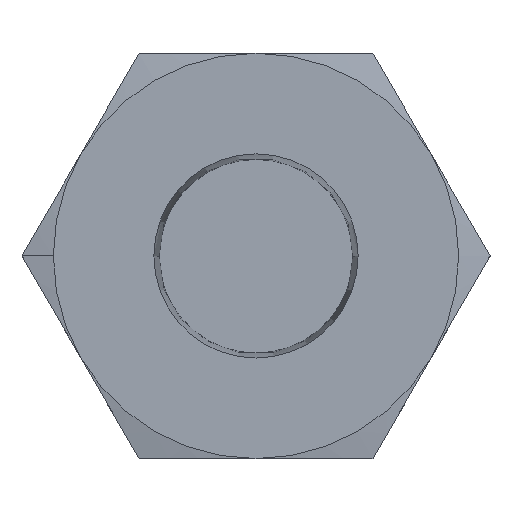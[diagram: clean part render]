
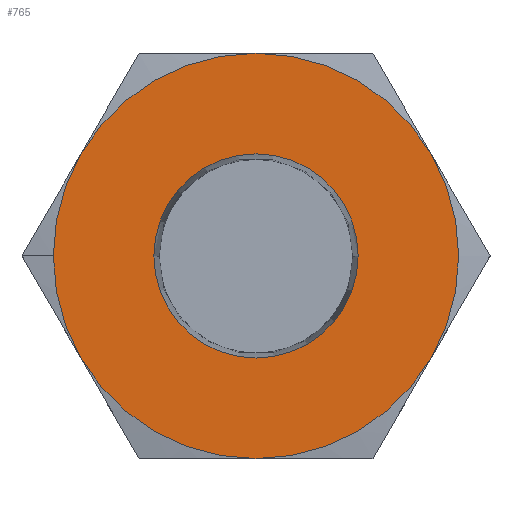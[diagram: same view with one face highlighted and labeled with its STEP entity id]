
A CAD part, top view. The second image highlights one B-rep face of the part: STEP entity #765.
In plain terms, the highlighted planar face has unit normal (0, 0, 1).
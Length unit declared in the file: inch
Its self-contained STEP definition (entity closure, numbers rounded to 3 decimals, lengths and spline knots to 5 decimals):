
#3 = DIRECTION ( 'NONE',  ( 0., 0., 1. ) ) ;
#34 = VERTEX_POINT ( 'NONE', #382 ) ;
#44 = DIRECTION ( 'NONE',  ( 0., 0., 1. ) ) ;
#88 = EDGE_CURVE ( 'NONE', #1481, #34, #397, .T. ) ;
#100 = DIRECTION ( 'NONE',  ( 1., 0., 0. ) ) ;
#106 = CIRCLE ( 'NONE', #551, 1. ) ;
#128 = AXIS2_PLACEMENT_3D ( 'NONE', #574, #1398, #687 ) ;
#163 = CARTESIAN_POINT ( 'NONE',  ( -0.86603, -0.5, 0.34 ) ) ;
#175 = CIRCLE ( 'NONE', #515, 1. ) ;
#191 = CARTESIAN_POINT ( 'NONE',  ( 0., -1., 0.34 ) ) ;
#207 = DIRECTION ( 'NONE',  ( 0., 0., 1. ) ) ;
#227 = CARTESIAN_POINT ( 'NONE',  ( 0., 0., 0.34 ) ) ;
#237 = CARTESIAN_POINT ( 'NONE',  ( 0.86603, 0.5, 0.34 ) ) ;
#250 = VERTEX_POINT ( 'NONE', #163 ) ;
#268 = CARTESIAN_POINT ( 'NONE',  ( -1., 0., 0.34 ) ) ;
#286 = AXIS2_PLACEMENT_3D ( 'NONE', #568, #3, #892 ) ;
#301 = CARTESIAN_POINT ( 'NONE',  ( 0., 0., 0.34 ) ) ;
#302 = CARTESIAN_POINT ( 'NONE',  ( 0., 0., 0.34 ) ) ;
#326 = DIRECTION ( 'NONE',  ( 0., 0., 1. ) ) ;
#332 = VERTEX_POINT ( 'NONE', #1300 ) ;
#370 = CARTESIAN_POINT ( 'NONE',  ( -0.50392, 0., 0.34 ) ) ;
#378 = ORIENTED_EDGE ( 'NONE', *, *, #837, .T. ) ;
#382 = CARTESIAN_POINT ( 'NONE',  ( 0.50392, 0., 0.34 ) ) ;
#397 = CIRCLE ( 'NONE', #1042, 0.50392 ) ;
#413 = CARTESIAN_POINT ( 'NONE',  ( 0., 0., 0.34 ) ) ;
#414 = ORIENTED_EDGE ( 'NONE', *, *, #1078, .T. ) ;
#435 = DIRECTION ( 'NONE',  ( 1., 0., 0. ) ) ;
#437 = DIRECTION ( 'NONE',  ( 1., 0., 0. ) ) ;
#451 = CIRCLE ( 'NONE', #1010, 1. ) ;
#469 = EDGE_LOOP ( 'NONE', ( #1370, #1349, #414, #1476, #657, #936, #378 ) ) ;
#486 = ORIENTED_EDGE ( 'NONE', *, *, #88, .F. ) ;
#515 = AXIS2_PLACEMENT_3D ( 'NONE', #706, #1534, #834 ) ;
#539 = FACE_BOUND ( 'NONE', #823, .T. ) ;
#543 = DIRECTION ( 'NONE',  ( 1., 0., 0. ) ) ;
#551 = AXIS2_PLACEMENT_3D ( 'NONE', #413, #1256, #543 ) ;
#568 = CARTESIAN_POINT ( 'NONE',  ( 1.1547, 0., 0.34 ) ) ;
#574 = CARTESIAN_POINT ( 'NONE',  ( 0., 0., 0.34 ) ) ;
#628 = VERTEX_POINT ( 'NONE', #268 ) ;
#657 = ORIENTED_EDGE ( 'NONE', *, *, #1258, .T. ) ;
#687 = DIRECTION ( 'NONE',  ( 1., 0., 0. ) ) ;
#700 = DIRECTION ( 'NONE',  ( 0., 0., 1. ) ) ;
#705 = VERTEX_POINT ( 'NONE', #1501 ) ;
#706 = CARTESIAN_POINT ( 'NONE',  ( 0., 0., 0.34 ) ) ;
#765 = ADVANCED_FACE ( 'NONE', ( #539, #1187 ), #802, .T. ) ;
#802 = PLANE ( 'NONE',  #286 ) ;
#813 = CARTESIAN_POINT ( 'NONE',  ( 0., 0., 0.34 ) ) ;
#823 = EDGE_LOOP ( 'NONE', ( #1298, #486 ) ) ;
#834 = DIRECTION ( 'NONE',  ( 1., 0., 0. ) ) ;
#837 = EDGE_CURVE ( 'NONE', #1330, #332, #106, .T. ) ;
#892 = DIRECTION ( 'NONE',  ( 1., 0., 0. ) ) ;
#914 = EDGE_CURVE ( 'NONE', #250, #1330, #1267, .T. ) ;
#933 = DIRECTION ( 'NONE',  ( 1., 0., 0. ) ) ;
#936 = ORIENTED_EDGE ( 'NONE', *, *, #914, .T. ) ;
#961 = CIRCLE ( 'NONE', #1270, 1. ) ;
#971 = VERTEX_POINT ( 'NONE', #1045 ) ;
#990 = EDGE_CURVE ( 'NONE', #705, #628, #961, .T. ) ;
#1010 = AXIS2_PLACEMENT_3D ( 'NONE', #1411, #700, #1524 ) ;
#1042 = AXIS2_PLACEMENT_3D ( 'NONE', #227, #207, #100 ) ;
#1045 = CARTESIAN_POINT ( 'NONE',  ( 0., 1., 0.34 ) ) ;
#1056 = CIRCLE ( 'NONE', #1179, 0.50392 ) ;
#1060 = CARTESIAN_POINT ( 'NONE',  ( 0., 0., 0.34 ) ) ;
#1078 = EDGE_CURVE ( 'NONE', #971, #705, #175, .T. ) ;
#1117 = AXIS2_PLACEMENT_3D ( 'NONE', #301, #1166, #435 ) ;
#1125 = CIRCLE ( 'NONE', #128, 1. ) ;
#1159 = EDGE_CURVE ( 'NONE', #1455, #971, #1354, .T. ) ;
#1166 = DIRECTION ( 'NONE',  ( 0., 0., 1. ) ) ;
#1167 = DIRECTION ( 'NONE',  ( 0., 0., 1. ) ) ;
#1179 = AXIS2_PLACEMENT_3D ( 'NONE', #1060, #326, #1186 ) ;
#1186 = DIRECTION ( 'NONE',  ( 1., 0., 0. ) ) ;
#1187 = FACE_OUTER_BOUND ( 'NONE', #469, .T. ) ;
#1231 = EDGE_CURVE ( 'NONE', #332, #1455, #1125, .T. ) ;
#1256 = DIRECTION ( 'NONE',  ( 0., 0., 1. ) ) ;
#1258 = EDGE_CURVE ( 'NONE', #628, #250, #451, .T. ) ;
#1267 = CIRCLE ( 'NONE', #1117, 1. ) ;
#1270 = AXIS2_PLACEMENT_3D ( 'NONE', #813, #44, #933 ) ;
#1298 = ORIENTED_EDGE ( 'NONE', *, *, #1308, .F. ) ;
#1300 = CARTESIAN_POINT ( 'NONE',  ( 0.86603, -0.5, 0.34 ) ) ;
#1308 = EDGE_CURVE ( 'NONE', #34, #1481, #1056, .T. ) ;
#1330 = VERTEX_POINT ( 'NONE', #191 ) ;
#1349 = ORIENTED_EDGE ( 'NONE', *, *, #1159, .T. ) ;
#1354 = CIRCLE ( 'NONE', #1475, 1. ) ;
#1370 = ORIENTED_EDGE ( 'NONE', *, *, #1231, .T. ) ;
#1398 = DIRECTION ( 'NONE',  ( 0., 0., 1. ) ) ;
#1411 = CARTESIAN_POINT ( 'NONE',  ( 0., 0., 0.34 ) ) ;
#1455 = VERTEX_POINT ( 'NONE', #237 ) ;
#1475 = AXIS2_PLACEMENT_3D ( 'NONE', #302, #1167, #437 ) ;
#1476 = ORIENTED_EDGE ( 'NONE', *, *, #990, .T. ) ;
#1481 = VERTEX_POINT ( 'NONE', #370 ) ;
#1501 = CARTESIAN_POINT ( 'NONE',  ( -0.86603, 0.5, 0.34 ) ) ;
#1524 = DIRECTION ( 'NONE',  ( 1., 0., 0. ) ) ;
#1534 = DIRECTION ( 'NONE',  ( 0., 0., 1. ) ) ;
